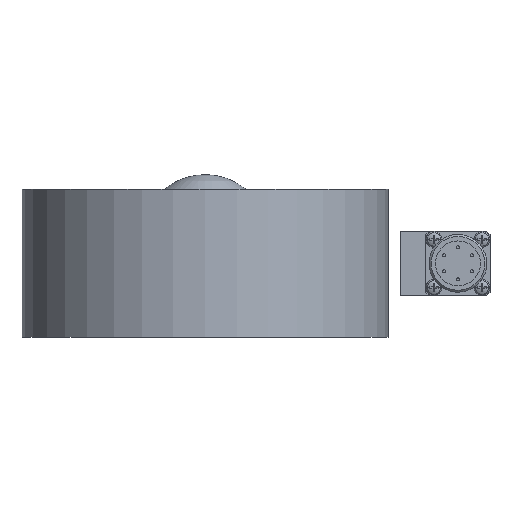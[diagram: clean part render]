
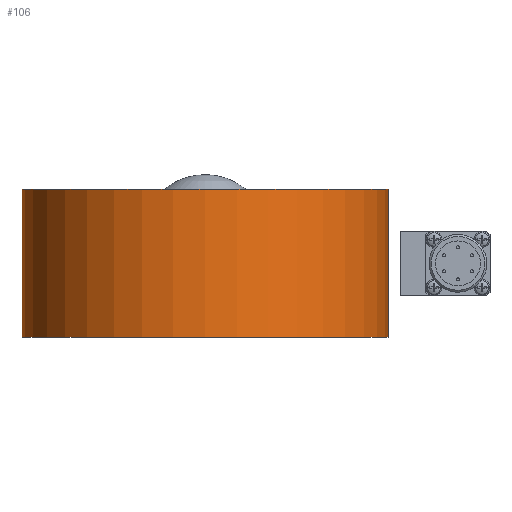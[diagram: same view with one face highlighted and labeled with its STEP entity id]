
A CAD part, front view. The second image highlights one B-rep face of the part: STEP entity #106.
In plain terms, the highlighted cylindrical face has radius 57.15 mm (diameter 114.3 mm), a partial arc.
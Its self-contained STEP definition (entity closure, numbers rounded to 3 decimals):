
#106=ADVANCED_FACE('',(#306),#307,.T.);
#306=FACE_OUTER_BOUND('',#654,.T.);
#307=CYLINDRICAL_SURFACE('',#655,57.15);
#654=EDGE_LOOP('',(#1167,#1168,#1169,#1170));
#655=AXIS2_PLACEMENT_3D('',#1171,#1172,#1173);
#1167=ORIENTED_EDGE('',*,*,#2233,.T.);
#1168=ORIENTED_EDGE('',*,*,#2296,.F.);
#1169=ORIENTED_EDGE('',*,*,#2235,.T.);
#1170=ORIENTED_EDGE('',*,*,#2309,.F.);
#1171=CARTESIAN_POINT('',(0.0,0.0,23.1));
#1172=DIRECTION('',(0.0,0.0,-1.0));
#1173=DIRECTION('',(1.0,0.0,0.0));
#2233=EDGE_CURVE('',#2636,#2637,#2638,.T.);
#2235=EDGE_CURVE('',#2641,#2639,#2642,.T.);
#2296=EDGE_CURVE('',#2641,#2637,#2750,.T.);
#2309=EDGE_CURVE('',#2636,#2639,#2763,.T.);
#2636=VERTEX_POINT('',#3290);
#2637=VERTEX_POINT('',#3291);
#2638=LINE('',#3292,#3293);
#2639=VERTEX_POINT('',#3294);
#2641=VERTEX_POINT('',#3296);
#2642=LINE('',#3297,#3298);
#2750=CIRCLE('',#3429,57.15);
#2763=CIRCLE('',#3442,57.15);
#3290=CARTESIAN_POINT('',(57.15,0.0,0.0));
#3291=CARTESIAN_POINT('',(57.15,0.0,46.2));
#3292=CARTESIAN_POINT('',(57.15,0.,23.1));
#3293=VECTOR('',#4634,1.0);
#3294=CARTESIAN_POINT('',(-57.15,0.,0.0));
#3296=CARTESIAN_POINT('',(-57.15,0.,46.2));
#3297=CARTESIAN_POINT('',(-57.15,0.,23.1));
#3298=VECTOR('',#4638,1.0);
#3429=AXIS2_PLACEMENT_3D('',#4773,#4774,#4775);
#3442=AXIS2_PLACEMENT_3D('',#4812,#4813,#4814);
#4634=DIRECTION('',(0.0,0.0,1.0));
#4638=DIRECTION('',(0.0,0.0,-1.0));
#4773=CARTESIAN_POINT('',(0.0,0.0,46.2));
#4774=DIRECTION('',(0.0,0.0,1.0));
#4775=DIRECTION('',(1.0,0.0,0.0));
#4812=CARTESIAN_POINT('',(0.0,0.0,0.0));
#4813=DIRECTION('',(0.0,0.0,-1.0));
#4814=DIRECTION('',(1.0,0.0,0.0));
